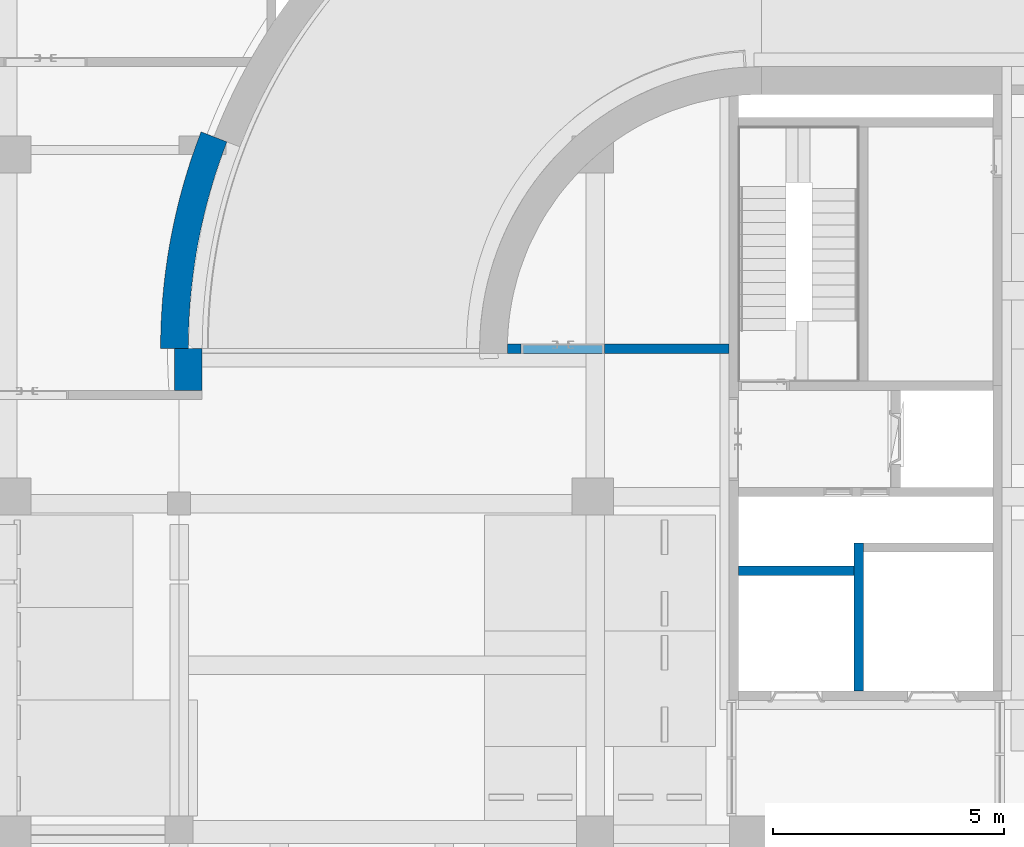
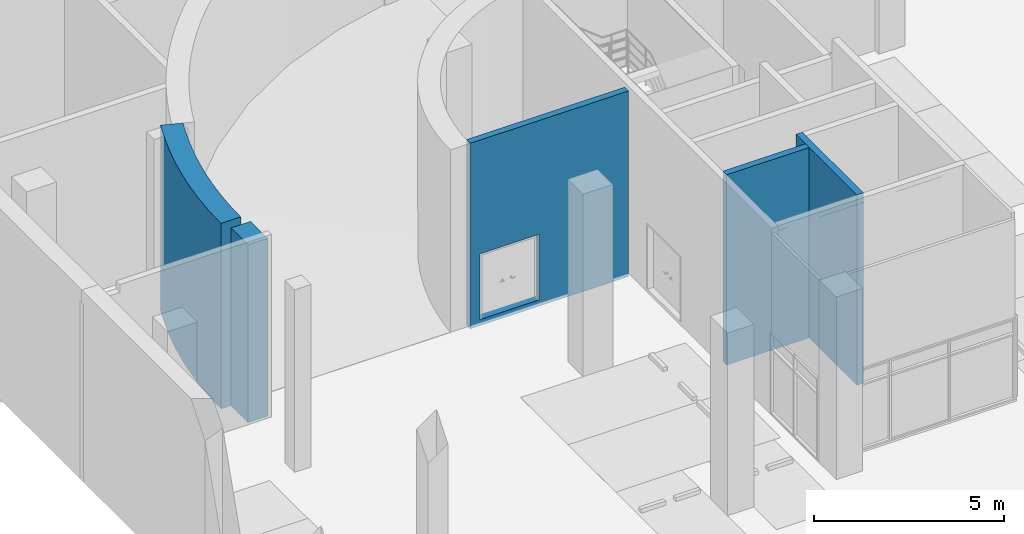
# One storey, part 9 of 29: 5 walls, 1 opening.
"""IFC2X3 building model written with IfcOpenShell, lengths in millimetres."""

from ifc_helpers import new_model, entity, si_unit, converted_unit, derived_unit, direction, frame, frame_2d, origin, place, context, subcontext, project, spatial, polyline, circle_curve, parameter, trimmed, segment, composite_curve, rectangle, outline, extrude, material, layer, layer_set, layer_usage, type_object, element, save


model = new_model("IFC2X3")

# Units and contexts
model_context = context("Model", 3, precision=0.01, world=origin(), true_north=direction((6.123031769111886e-17, 1.0)))
body_context = subcontext(model_context, "Body", "Model", "MODEL_VIEW")
ifc_project = project(units=[si_unit("LENGTHUNIT", "METRE", prefix="MILLI"), si_unit("AREAUNIT", "SQUARE_METRE"), si_unit("VOLUMEUNIT", "CUBIC_METRE"), converted_unit("PLANEANGLEUNIT", "DEGREE", entity("IfcRatioMeasure", 0.017453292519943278), si_unit("PLANEANGLEUNIT", "RADIAN"), dimensions=[0, 0, 0, 0, 0, 0, 0]), si_unit("MASSUNIT", "GRAM", prefix="KILO"), derived_unit("MASSDENSITYUNIT", [(si_unit("MASSUNIT", "GRAM", prefix="KILO"), 1), (si_unit("LENGTHUNIT", "METRE"), -3)]), derived_unit("MOMENTOFINERTIAUNIT", [(si_unit("LENGTHUNIT", "METRE"), 4)]), si_unit("TIMEUNIT", "SECOND"), si_unit("FREQUENCYUNIT", "HERTZ"), si_unit("THERMODYNAMICTEMPERATUREUNIT", "DEGREE_CELSIUS"), derived_unit("THERMALTRANSMITTANCEUNIT", [(si_unit("MASSUNIT", "GRAM", prefix="KILO"), 1), (si_unit("THERMODYNAMICTEMPERATUREUNIT", "KELVIN"), -1), (si_unit("TIMEUNIT", "SECOND"), -3)]), derived_unit("VOLUMETRICFLOWRATEUNIT", [(si_unit("LENGTHUNIT", "METRE"), 3), (si_unit("TIMEUNIT", "SECOND"), -1)]), derived_unit("MASSFLOWRATEUNIT", [(si_unit("MASSUNIT", "GRAM", prefix="KILO"), 1), (si_unit("TIMEUNIT", "SECOND"), -1)]), derived_unit("ROTATIONALFREQUENCYUNIT", [(si_unit("TIMEUNIT", "SECOND"), -1)]), si_unit("ELECTRICCURRENTUNIT", "AMPERE"), si_unit("ELECTRICVOLTAGEUNIT", "VOLT"), si_unit("POWERUNIT", "WATT"), si_unit("FORCEUNIT", "NEWTON", prefix="KILO"), si_unit("ILLUMINANCEUNIT", "LUX"), si_unit("LUMINOUSFLUXUNIT", "LUMEN"), si_unit("LUMINOUSINTENSITYUNIT", "CANDELA"), derived_unit("USERDEFINED", [(si_unit("MASSUNIT", "GRAM", prefix="KILO"), -1), (si_unit("LENGTHUNIT", "METRE"), -2), (si_unit("TIMEUNIT", "SECOND"), 3), (si_unit("LUMINOUSFLUXUNIT", "LUMEN"), 1)]), derived_unit("SOUNDPOWERUNIT", [(si_unit("MASSUNIT", "GRAM", prefix="KILO"), 1), (si_unit("LENGTHUNIT", "METRE"), 2), (si_unit("TIMEUNIT", "SECOND"), -3)]), derived_unit("SOUNDPRESSUREUNIT", [(si_unit("MASSUNIT", "GRAM", prefix="KILO"), 1), (si_unit("LENGTHUNIT", "METRE"), -1), (si_unit("TIMEUNIT", "SECOND"), -2)]), derived_unit("LINEARVELOCITYUNIT", [(si_unit("LENGTHUNIT", "METRE"), 1), (si_unit("TIMEUNIT", "SECOND"), -1)]), si_unit("PRESSUREUNIT", "PASCAL"), derived_unit("USERDEFINED", [(si_unit("LENGTHUNIT", "METRE"), -2), (si_unit("MASSUNIT", "GRAM", prefix="KILO"), 1), (si_unit("TIMEUNIT", "SECOND"), -2)]), derived_unit("LINEARFORCEUNIT", [(si_unit("MASSUNIT", "GRAM", prefix="KILO"), 1), (si_unit("LENGTHUNIT", "METRE"), 1), (si_unit("TIMEUNIT", "SECOND"), -2), (si_unit("LENGTHUNIT", "METRE"), -1)]), derived_unit("PLANARFORCEUNIT", [(si_unit("MASSUNIT", "GRAM", prefix="KILO"), 1), (si_unit("LENGTHUNIT", "METRE"), 1), (si_unit("TIMEUNIT", "SECOND"), -2), (si_unit("LENGTHUNIT", "METRE"), -2)])], contexts=[model_context])

# Site, building, storey
site_placement = place(None, frame((-14167.972527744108, -657.2125860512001, 0.0)))
site = spatial("IfcSite", under=ifc_project, at=site_placement, Name="Default", CompositionType="ELEMENT")
building_placement = place(site_placement, origin())
building = spatial("IfcBuilding", under=site, at=building_placement, Name="Sample Building", CompositionType="ELEMENT")
storey_placement = place(building_placement, frame((0.0, 0.0, -6100.0)))
storey = spatial("IfcBuildingStorey", under=building, at=storey_placement, Name="지하1층", CompositionType="ELEMENT", Elevation=-6099.999999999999)

# Walls
ifc_material = material(Name="KBIMS-콘크리트")
ifc_layer_1 = layer(ifc_material, 600.0)
ifc_layer_set_1 = layer_set([ifc_layer_1], Name="기본 벽:WA111-철근콘크리트구조 벽 300mm_RaW1")
ifc_layer_usage_1 = layer_usage(ifc_layer_set_1, "AXIS2", "NEGATIVE", 300.0)
wall_type_1 = type_object("IfcWallType", Name="기본 벽:WA111-철근콘크리트구조 벽 300mm_RaW1", PredefinedType="STANDARD", material=ifc_layer_set_1)
wall_1_placement = place(storey_placement, frame((18923.388140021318, 27739.332073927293, 0.0)))
element("IfcWallStandardCase", 1, at=wall_1_placement, inside=storey, type_object=wall_type_1, material=ifc_layer_usage_1, Name="기본 벽:WA111-철근콘크리트구조 벽 300mm_RaW1", ObjectType="기본 벽:WA111-철근콘크리트구조 벽 300mm_RaW1", context=body_context, shape_type="SweptSolid", body=[
    extrude(outline(composite_curve([segment(trimmed(circle_curve(frame_2d((11844.584351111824, -4582.11976593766), x_axis=(1.0, 0.0)), 12399.999999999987), [parameter(179.5706060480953)], [parameter(180.00000000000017)], True, "PARAMETER"), False, "CONTINUOUS"), segment(trimmed(circle_curve(frame_2d((11844.584351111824, -4582.11976593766), x_axis=(1.0, 0.0)), 12399.999999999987), [parameter(160.20171834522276)], [parameter(179.5706060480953)], True, "PARAMETER"), False, "CONTINUOUS"), segment(trimmed(circle_curve(frame_2d((11844.584351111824, -4582.11976593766), x_axis=(1.0, 0.0)), 12399.999999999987), [parameter(159.04683731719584)], [parameter(160.20171834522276)], True, "PARAMETER"), False, "CONTINUOUS"), segment(trimmed(circle_curve(frame_2d((11844.584351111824, -4582.11976593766), x_axis=(1.0, 0.0)), 12399.999999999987), [parameter(158.85085973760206)], [parameter(159.04683731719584)], True, "PARAMETER"), False, "CONTINUOUS"), segment(polyline([(279.7933311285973, -108.23904958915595), (0.0, 0.0)]), True, "CONTINUOUS"), segment(polyline([(0.0, 0.0), (-46.220442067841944, 17.88054311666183)]), True, "CONTINUOUS"), segment(polyline([(-46.220442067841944, 17.88054311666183), (-279.79333112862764, 108.23904958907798)]), True, "CONTINUOUS"), segment(trimmed(circle_curve(frame_2d((11844.584351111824, -4582.11976593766), x_axis=(1.0, 0.0)), 12999.99999999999), [parameter(158.8508597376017)], [parameter(159.27725416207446)], True, "PARAMETER"), True, "CONTINUOUS"), segment(trimmed(circle_curve(frame_2d((11844.584351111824, -4582.11976593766), x_axis=(1.0, 0.0)), 12999.99999999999), [parameter(159.27725416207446)], [parameter(161.15089196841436)], True, "PARAMETER"), True, "CONTINUOUS"), segment(trimmed(circle_curve(frame_2d((11844.584351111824, -4582.11976593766), x_axis=(1.0, 0.0)), 12999.99999999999), [parameter(161.15089196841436)], [parameter(180.00000000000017)], True, "PARAMETER"), True, "CONTINUOUS"), segment(polyline([(-1155.4156488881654, -4582.11976593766), (-855.424341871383, -4582.119765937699)]), True, "CONTINUOUS"), segment(polyline([(-855.424341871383, -4582.119765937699), (-555.4156488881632, -4582.1197659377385)]), True, "CONTINUOUS")], self_intersect=False)), origin(), (0.0, 0.0, 1.0), 5950.000000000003),
])
ifc_layer_usage_2 = layer_usage(ifc_layer_set_1, "AXIS2", "NEGATIVE", 300.0)
wall_2_placement = place(storey_placement, frame((18367.963798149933, 22257.212307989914, 0.0), z_axis=(0.0, 0.0, 1.0), x_axis=(0.0, 1.0, 0.0)))
element("IfcWallStandardCase", 2, at=wall_2_placement, inside=storey, type_object=wall_type_1, material=ifc_layer_usage_2, Name="기본 벽:WA111-철근콘크리트구조 벽 300mm_RaW1", ObjectType="기본 벽:WA111-철근콘크리트구조 벽 300mm_RaW1", context=body_context, shape_type="SweptSolid", body=[
    extrude(rectangle(XDim=899.9999999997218, YDim=600.0, at=frame_2d((449.9999999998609, -1.0800249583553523e-12), x_axis=(-1.0, 0.0))), origin(), (0.0, 0.0, 1.0), 5700.0),
])
ifc_layer_2 = layer(ifc_material, 200.0)
ifc_layer_set_2 = layer_set([ifc_layer_2], Name="기본 벽:WA111-철근콘크리트구조 벽 200mm_CW2")
ifc_layer_usage_3 = layer_usage(ifc_layer_set_2, "AXIS2", "NEGATIVE", 100.0)
wall_type_2 = type_object("IfcWallType", Name="기본 벽:WA111-철근콘크리트구조 벽 200mm_CW2", PredefinedType="STANDARD", material=ifc_layer_set_2)
wall_3_placement = place(storey_placement, frame((32867.97271708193, 15753.302947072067, 0.0), z_axis=(0.0, 0.0, 1.0), x_axis=(0.0, 1.0, 0.0)))
element("IfcWallStandardCase", 3, at=wall_3_placement, inside=storey, type_object=wall_type_2, material=ifc_layer_usage_3, Name="기본 벽:WA111-철근콘크리트구조 벽 200mm_CW2", ObjectType="기본 벽:WA111-철근콘크리트구조 벽 200mm_CW2", context=body_context, shape_type="SweptSolid", body=[
    extrude(rectangle(XDim=3203.9093625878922, YDim=200.0000000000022, at=frame_2d((1601.954681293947, -2.1032064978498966e-12), x_axis=(-1.0, 0.0))), origin(), (0.0, 0.0, 1.0), 6100.000000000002),
])
ifc_layer_usage_4 = layer_usage(ifc_layer_set_2, "AXIS2", "NEGATIVE", 100.0)
wall_4_placement = place(storey_placement, frame((32767.97271708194, 18357.212309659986, 0.0), z_axis=(0.0, 0.0, 1.0), x_axis=(-1.0, 0.0, 0.0)))
element("IfcWallStandardCase", 4, at=wall_4_placement, inside=storey, type_object=wall_type_2, material=ifc_layer_usage_4, Name="기본 벽:WA111-철근콘크리트구조 벽 200mm_CW2", ObjectType="기본 벽:WA111-철근콘크리트구조 벽 200mm_CW2", context=body_context, shape_type="SweptSolid", body=[
    extrude(rectangle(XDim=2501.8469026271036, YDim=200.0, at=frame_2d((1250.9234513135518, 9.592326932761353e-13), x_axis=(-1.0, 0.0))), origin(), (0.0, 0.0, 1.0), 6100.000000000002),
])

# Wall, opening
ifc_layer_3 = layer(ifc_material, 200.0)
ifc_layer_set_3 = layer_set([ifc_layer_3], Name="기본 벽:WA111-철근콘크리트구조 벽 200mm_W2")
ifc_layer_usage_5 = layer_usage(ifc_layer_set_3, "AXIS2", "NEGATIVE", 100.0)
wall_type_3 = type_object("IfcWallType", Name="기본 벽:WA111-철근콘크리트구조 벽 200mm_W2", PredefinedType="STANDARD", material=ifc_layer_set_3)
wall_5_placement = place(storey_placement, frame((30066.125814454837, 23157.212307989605, 0.0), z_axis=(0.0, 0.0, 1.0), x_axis=(-1.0, 0.0, 0.0)))
wall_5 = element("IfcWallStandardCase", 5, at=wall_5_placement, inside=storey, type_object=wall_type_3, material=ifc_layer_usage_5, Name="기본 벽:WA111-철근콘크리트구조 벽 200mm_W2", ObjectType="기본 벽:WA111-철근콘크리트구조 벽 200mm_W2", context=body_context, shape_type="SweptSolid", body=[
    extrude(outline(composite_curve([segment(trimmed(circle_curve(frame_2d((-701.8466766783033, 0.0), x_axis=(-1.0, 0.0)), 5499.999999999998), [parameter(178.95820114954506)], [parameter(181.04179885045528)], True, "PARAMETER"), True, "CONTINUOUS"), segment(polyline([(4797.244157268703, 100.0), (0.0, 100.0)]), True, "CONTINUOUS"), segment(polyline([(0.0, 100.0), (0.0, -100.0)]), True, "CONTINUOUS"), segment(polyline([(0.0, -100.0), (4797.244157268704, -100.0)]), True, "CONTINUOUS")], self_intersect=False)), origin(), (0.0, 0.0, 1.0), 5950.000000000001),
])
opening_placement = place(wall_5_placement, frame((4498.153323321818, 100.0, 200.0)))
element("IfcOpeningElement", 6, at=opening_placement, cuts=wall_5, Name="DR121-쌍여닫이문(철재, 방화문):DR121-쌍여닫이문(철재, 방화문) 1800x2100mm:1", ObjectType="Opening", context=body_context, shape_type="SweptSolid", body=[
    extrude(rectangle(XDim=2099.999999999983, YDim=1799.9999999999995, at=frame_2d((1049.9999999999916, 899.9999999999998), x_axis=(1.0, 0.0))), frame((0.0, 0.0, 0.0), z_axis=(0.0, -1.0, 0.0), x_axis=(0.0, 0.0, 1.0)), (0.0, 0.0, 1.0), 200.0),
])

save(model, "model.ifc")
